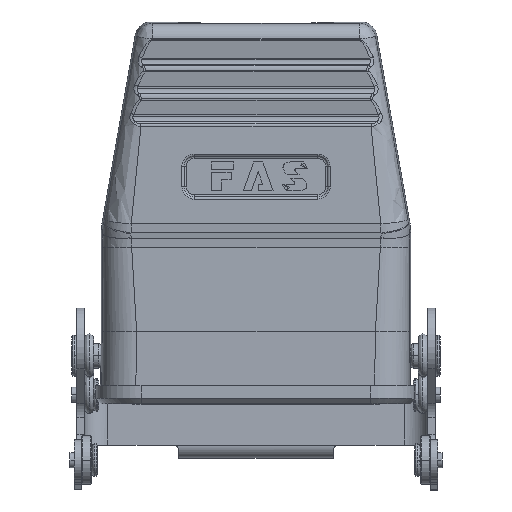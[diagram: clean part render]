
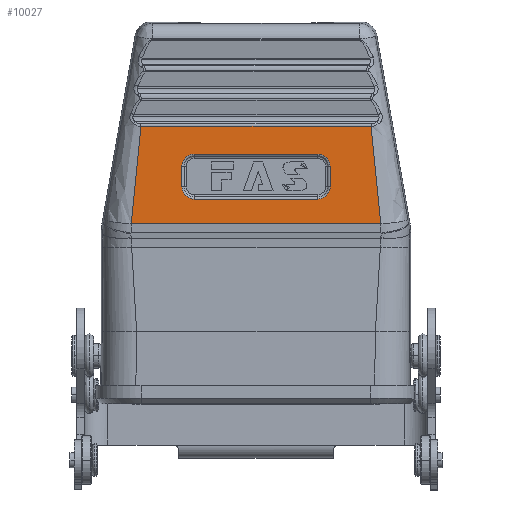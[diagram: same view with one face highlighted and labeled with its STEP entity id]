
A CAD part, top view. The second image highlights one B-rep face of the part: STEP entity #10027.
In plain terms, the highlighted planar face has unit normal (0, 0, 1) as drawn and (0, -1, 0) by its records, which use the part's own axes.
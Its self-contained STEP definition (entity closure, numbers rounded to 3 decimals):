
#135 = LINE ( 'NONE', #8172, #20049 ) ;
#308 = VERTEX_POINT ( 'NONE', #29485 ) ;
#440 = VECTOR ( 'NONE', #10673, 1000. ) ;
#709 = CARTESIAN_POINT ( 'NONE',  ( -14.366, -22., 0. ) ) ;
#799 = VERTEX_POINT ( 'NONE', #10037 ) ;
#1675 = CARTESIAN_POINT ( 'NONE',  ( 14.366, -22., 32. ) ) ;
#1859 = CARTESIAN_POINT ( 'NONE',  ( -13.386, -22., 34.366 ) ) ;
#3429 = LINE ( 'NONE', #9265, #4974 ) ;
#3966 = FACE_OUTER_BOUND ( 'NONE', #27136, .T. ) ;
#3974 = CARTESIAN_POINT ( 'NONE',  ( 14.366, -22., 26.614 ) ) ;
#4280 = EDGE_CURVE ( 'NONE', #13584, #22698, #22186, .T. ) ;
#4301 =( BOUNDED_CURVE ( )  B_SPLINE_CURVE ( 3, ( #28400, #30888, #3974, #8872 ),
 .UNSPECIFIED., .F., .F. ) 
 B_SPLINE_CURVE_WITH_KNOTS ( ( 4, 4 ),
 ( 0., 1. ),
 .UNSPECIFIED. ) 
 CURVE ( )  GEOMETRIC_REPRESENTATION_ITEM ( )  RATIONAL_B_SPLINE_CURVE ( ( 1., 0.805, 0.805, 1. ) ) 
 REPRESENTATION_ITEM ( '' )  );
#4454 = EDGE_CURVE ( 'NONE', #308, #13584, #3429, .T. ) ;
#4532 = ORIENTED_EDGE ( 'NONE', *, *, #4280, .F. ) ;
#4974 = VECTOR ( 'NONE', #9912, 1000. ) ;
#5126 = LINE ( 'NONE', #709, #10847 ) ;
#5200 = VECTOR ( 'NONE', #31461, 1000. ) ;
#5271 = VERTEX_POINT ( 'NONE', #28437 ) ;
#5504 = VERTEX_POINT ( 'NONE', #29309 ) ;
#6039 = DIRECTION ( 'NONE',  ( 1., 0., 0. ) ) ;
#6714 = CARTESIAN_POINT ( 'NONE',  ( 12., -22., 34.366 ) ) ;
#6976 = EDGE_CURVE ( 'NONE', #20360, #27401, #28313, .T. ) ;
#6999 = CARTESIAN_POINT ( 'NONE',  ( -23.096, -22., 33.477 ) ) ;
#7020 = CARTESIAN_POINT ( 'NONE',  ( -270.598, -22., 20.875 ) ) ;
#7318 = CARTESIAN_POINT ( 'NONE',  ( -24.172, -22., 20.875 ) ) ;
#7463 = CARTESIAN_POINT ( 'NONE',  ( -30., -22., 0. ) ) ;
#7825 = ORIENTED_EDGE ( 'NONE', *, *, #24433, .F. ) ;
#8172 = CARTESIAN_POINT ( 'NONE',  ( -30., -22., 25.634 ) ) ;
#8194 = CARTESIAN_POINT ( 'NONE',  ( -22.292, -22., 39.758 ) ) ;
#8541 = CARTESIAN_POINT ( 'NONE',  ( 24.01, -22., 24.029 ) ) ;
#8596 = CARTESIAN_POINT ( 'NONE',  ( -13.386, -22., 25.634 ) ) ;
#8872 = CARTESIAN_POINT ( 'NONE',  ( 14.366, -22., 28. ) ) ;
#9213 = ORIENTED_EDGE ( 'NONE', *, *, #6976, .F. ) ;
#9265 = CARTESIAN_POINT ( 'NONE',  ( 14.366, -22., 0. ) ) ;
#9912 = DIRECTION ( 'NONE',  ( 0., 0., 1. ) ) ;
#10027 = ADVANCED_FACE ( 'NONE', ( #24296, #3966 ), #29582, .F. ) ;
#10037 = CARTESIAN_POINT ( 'NONE',  ( 12., -22., 25.634 ) ) ;
#10612 = CARTESIAN_POINT ( 'NONE',  ( 22.292, -22., 39.758 ) ) ;
#10673 = DIRECTION ( 'NONE',  ( 1., 0., 0. ) ) ;
#10847 = VECTOR ( 'NONE', #27841, 1000. ) ;
#10851 = VERTEX_POINT ( 'NONE', #13888 ) ;
#11306 = EDGE_CURVE ( 'NONE', #27401, #10851, #31173, .T. ) ;
#11703 = VERTEX_POINT ( 'NONE', #22420 ) ;
#11707 = CARTESIAN_POINT ( 'NONE',  ( 13.386, -22., 34.366 ) ) ;
#12817 = AXIS2_PLACEMENT_3D ( 'NONE', #7463, #17563, #27313 ) ;
#12823 = ORIENTED_EDGE ( 'NONE', *, *, #30877, .F. ) ;
#13218 = CARTESIAN_POINT ( 'NONE',  ( -14.366, -22., 26.614 ) ) ;
#13298 = B_SPLINE_CURVE_WITH_KNOTS ( 'NONE', 3,
 ( #10612, #20682, #28293, #28084, #8541, #23040 ),
 .UNSPECIFIED., .F., .F.,
 ( 4, 2, 4 ),
 ( 0., 0.5, 1. ),
 .UNSPECIFIED. ) ;
#13381 = DIRECTION ( 'NONE',  ( -1., 0., 0. ) ) ;
#13584 = VERTEX_POINT ( 'NONE', #25683 ) ;
#13709 = CARTESIAN_POINT ( 'NONE',  ( -14.366, -22., 32. ) ) ;
#13888 = CARTESIAN_POINT ( 'NONE',  ( 22.292, -22., 39.758 ) ) ;
#14042 = EDGE_CURVE ( 'NONE', #5504, #20360, #23213, .T. ) ;
#15246 = VERTEX_POINT ( 'NONE', #27142 ) ;
#16517 = EDGE_CURVE ( 'NONE', #799, #308, #4301, .T. ) ;
#17241 = CARTESIAN_POINT ( 'NONE',  ( -24.172, -22., 20.875 ) ) ;
#17563 = DIRECTION ( 'NONE',  ( 0., 1., 0. ) ) ;
#17640 =( BOUNDED_CURVE ( )  B_SPLINE_CURVE ( 3, ( #20856, #13218, #8596, #21061 ),
 .UNSPECIFIED., .F., .F. ) 
 B_SPLINE_CURVE_WITH_KNOTS ( ( 4, 4 ),
 ( 0., 1. ),
 .UNSPECIFIED. ) 
 CURVE ( )  GEOMETRIC_REPRESENTATION_ITEM ( )  RATIONAL_B_SPLINE_CURVE ( ( 1., 0.805, 0.805, 1. ) ) 
 REPRESENTATION_ITEM ( '' )  );
#18549 = CARTESIAN_POINT ( 'NONE',  ( -12., -22., 34.366 ) ) ;
#18748 = ORIENTED_EDGE ( 'NONE', *, *, #30123, .F. ) ;
#18894 = CARTESIAN_POINT ( 'NONE',  ( -14.366, -22., 33.386 ) ) ;
#18941 = CARTESIAN_POINT ( 'NONE',  ( 14.366, -22., 33.386 ) ) ;
#19116 = ORIENTED_EDGE ( 'NONE', *, *, #11306, .F. ) ;
#19244 = EDGE_LOOP ( 'NONE', ( #7825, #31744, #29688, #19627, #4532, #30037, #26101, #12823 ) ) ;
#19627 = ORIENTED_EDGE ( 'NONE', *, *, #24800, .F. ) ;
#20049 = VECTOR ( 'NONE', #6039, 1000. ) ;
#20262 = EDGE_CURVE ( 'NONE', #31638, #5271, #25673, .T. ) ;
#20360 = VERTEX_POINT ( 'NONE', #17241 ) ;
#20682 = CARTESIAN_POINT ( 'NONE',  ( 22.708, -22., 36.619 ) ) ;
#20816 = CARTESIAN_POINT ( 'NONE',  ( -30., -22., 34.366 ) ) ;
#20856 = CARTESIAN_POINT ( 'NONE',  ( -14.366, -22., 28. ) ) ;
#21022 = CARTESIAN_POINT ( 'NONE',  ( -12., -22., 34.366 ) ) ;
#21061 = CARTESIAN_POINT ( 'NONE',  ( -12., -22., 25.634 ) ) ;
#21689 = CARTESIAN_POINT ( 'NONE',  ( -24.009, -22., 24.029 ) ) ;
#21788 = CARTESIAN_POINT ( 'NONE',  ( -22.292, -22., 39.758 ) ) ;
#22186 =( BOUNDED_CURVE ( )  B_SPLINE_CURVE ( 3, ( #1675, #18941, #11707, #6714 ),
 .UNSPECIFIED., .F., .T. ) 
 B_SPLINE_CURVE_WITH_KNOTS ( ( 4, 4 ),
 ( 0., 1. ),
 .UNSPECIFIED. ) 
 CURVE ( )  GEOMETRIC_REPRESENTATION_ITEM ( )  RATIONAL_B_SPLINE_CURVE ( ( 1., 0.805, 0.805, 1. ) ) 
 REPRESENTATION_ITEM ( '' )  );
#22420 = CARTESIAN_POINT ( 'NONE',  ( -14.366, -22., 28. ) ) ;
#22698 = VERTEX_POINT ( 'NONE', #27539 ) ;
#23040 = CARTESIAN_POINT ( 'NONE',  ( 24.172, -22., 20.875 ) ) ;
#23213 = LINE ( 'NONE', #7020, #5200 ) ;
#24296 = FACE_BOUND ( 'NONE', #19244, .T. ) ;
#24433 = EDGE_CURVE ( 'NONE', #11703, #15246, #17640, .T. ) ;
#24453 = CARTESIAN_POINT ( 'NONE',  ( -22.707, -22., 36.619 ) ) ;
#24800 = EDGE_CURVE ( 'NONE', #22698, #31638, #30437, .T. ) ;
#25673 =( BOUNDED_CURVE ( )  B_SPLINE_CURVE ( 3, ( #21022, #1859, #18894, #13709 ),
 .UNSPECIFIED., .F., .F. ) 
 B_SPLINE_CURVE_WITH_KNOTS ( ( 4, 4 ),
 ( 0., 1. ),
 .UNSPECIFIED. ) 
 CURVE ( )  GEOMETRIC_REPRESENTATION_ITEM ( )  RATIONAL_B_SPLINE_CURVE ( ( 1., 0.805, 0.805, 1. ) ) 
 REPRESENTATION_ITEM ( '' )  );
#25683 = CARTESIAN_POINT ( 'NONE',  ( 14.366, -22., 32. ) ) ;
#26101 = ORIENTED_EDGE ( 'NONE', *, *, #16517, .F. ) ;
#26603 = CARTESIAN_POINT ( 'NONE',  ( -23.748, -22., 27.183 ) ) ;
#27136 = EDGE_LOOP ( 'NONE', ( #29051, #18748, #19116, #9213 ) ) ;
#27142 = CARTESIAN_POINT ( 'NONE',  ( -12., -22., 25.634 ) ) ;
#27313 = DIRECTION ( 'NONE',  ( 0., 0., 1. ) ) ;
#27401 = VERTEX_POINT ( 'NONE', #8194 ) ;
#27539 = CARTESIAN_POINT ( 'NONE',  ( 12., -22., 34.366 ) ) ;
#27841 = DIRECTION ( 'NONE',  ( 0., 0., -1. ) ) ;
#28084 = CARTESIAN_POINT ( 'NONE',  ( 23.748, -22., 27.182 ) ) ;
#28121 = VECTOR ( 'NONE', #13381, 1000. ) ;
#28293 = CARTESIAN_POINT ( 'NONE',  ( 23.097, -22., 33.477 ) ) ;
#28313 = B_SPLINE_CURVE_WITH_KNOTS ( 'NONE', 3,
 ( #7318, #21689, #26603, #6999, #24453, #21788 ),
 .UNSPECIFIED., .F., .F.,
 ( 4, 2, 4 ),
 ( 0., 0.5, 1. ),
 .UNSPECIFIED. ) ;
#28400 = CARTESIAN_POINT ( 'NONE',  ( 12., -22., 25.634 ) ) ;
#28437 = CARTESIAN_POINT ( 'NONE',  ( -14.366, -22., 32. ) ) ;
#29051 = ORIENTED_EDGE ( 'NONE', *, *, #14042, .F. ) ;
#29309 = CARTESIAN_POINT ( 'NONE',  ( 24.172, -22., 20.875 ) ) ;
#29485 = CARTESIAN_POINT ( 'NONE',  ( 14.366, -22., 28. ) ) ;
#29582 = PLANE ( 'NONE',  #12817 ) ;
#29688 = ORIENTED_EDGE ( 'NONE', *, *, #20262, .F. ) ;
#29995 = CARTESIAN_POINT ( 'NONE',  ( -30., -22., 39.758 ) ) ;
#30037 = ORIENTED_EDGE ( 'NONE', *, *, #4454, .F. ) ;
#30123 = EDGE_CURVE ( 'NONE', #10851, #5504, #13298, .T. ) ;
#30437 = LINE ( 'NONE', #20816, #28121 ) ;
#30547 = EDGE_CURVE ( 'NONE', #5271, #11703, #5126, .T. ) ;
#30877 = EDGE_CURVE ( 'NONE', #15246, #799, #135, .T. ) ;
#30888 = CARTESIAN_POINT ( 'NONE',  ( 13.386, -22., 25.634 ) ) ;
#31173 = LINE ( 'NONE', #29995, #440 ) ;
#31461 = DIRECTION ( 'NONE',  ( -1., 0., 0. ) ) ;
#31638 = VERTEX_POINT ( 'NONE', #18549 ) ;
#31744 = ORIENTED_EDGE ( 'NONE', *, *, #30547, .F. ) ;
